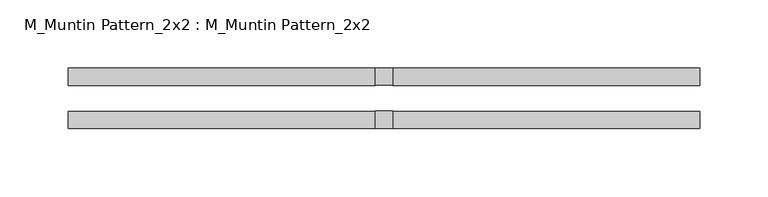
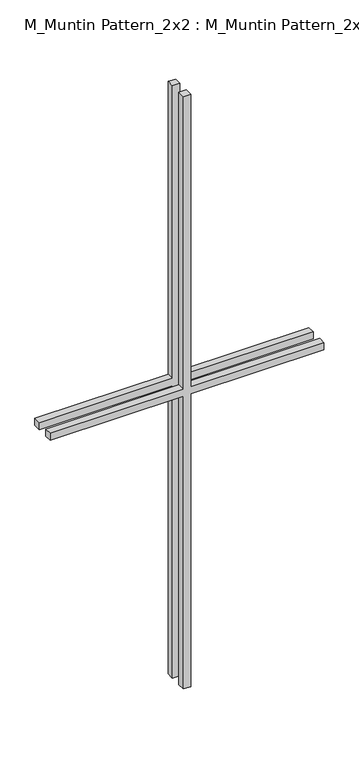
"""IFC4 building model written with IfcOpenShell, lengths in millimetres: proxy geometry, M_Muntin Pattern_2x2 : M_Muntin Pattern_2x2."""

from ifc_helpers import new_model, si_unit, frame, origin, place, context, project, spatial, polyline, outline, extrude, source, transform, mapped, element, save


def m_muntin_pattern_2x2_m_muntin_pattern_2x2_b10a9b49(model_context):
    return source(origin(), model_context, "Body", "SweptSolid", [
        extrude(outline(polyline([(536.5, -6.35), (536.5, -231.7375), (523.8, -231.7375), (523.8, -6.35), (0.0, -6.35), (0.0, 6.35), (523.8, 6.35), (523.8, 231.7375), (536.5, 231.7375), (536.5, 6.35), (1060.3, 6.35), (1060.3, -6.35), (536.5, -6.35)])), frame((0.0, -22.225, 0.0), z_axis=(0.0, 1.0, 0.0), x_axis=(0.0, 0.0, 1.0)), (0.0, 0.0, 1.0), 12.7),
        extrude(outline(polyline([(536.5, -6.35), (536.5, -231.7375), (523.8, -231.7375), (523.8, -6.35), (0.0, -6.35), (0.0, 6.35), (523.8, 6.35), (523.8, 231.7375), (536.5, 231.7375), (536.5, 6.35), (1060.3, 6.35), (1060.3, -6.35), (536.5, -6.35)])), frame((0.0, 9.525, 0.0), z_axis=(0.0, 1.0, 0.0), x_axis=(0.0, 0.0, 1.0)), (0.0, 0.0, 1.0), 12.7),
    ])


if __name__ == "__main__":
    model = new_model("IFC4")
    model_context = context("Model", 3, world=origin())
    ifc_project = project(units=[si_unit("LENGTHUNIT", "METRE", prefix="MILLI")], contexts=[model_context])
    site = spatial("IfcSite", under=ifc_project)
    building = spatial("IfcBuilding", under=site)
    placement = place(None, origin())
    m_muntin_pattern_2x2_m_muntin_pattern_2x2_shape = m_muntin_pattern_2x2_m_muntin_pattern_2x2_b10a9b49(model_context)
    element("IfcBuildingElementProxy", 1, Name="M_Muntin Pattern_2x2 : M_Muntin Pattern_2x2", ObjectType="M_Muntin Pattern_2x2 : M_Muntin Pattern_2x2", at=placement, inside=building, context=model_context, shape_type="MappedRepresentation", body=[
        mapped(m_muntin_pattern_2x2_m_muntin_pattern_2x2_shape, transform((0.0, 0.0, 0.0), x_axis=(1.0, 0.0, 0.0), y_axis=(0.0, 1.0, 0.0), z_axis=(0.0, 0.0, 1.0))),
    ])
    save(model, "model.ifc")
